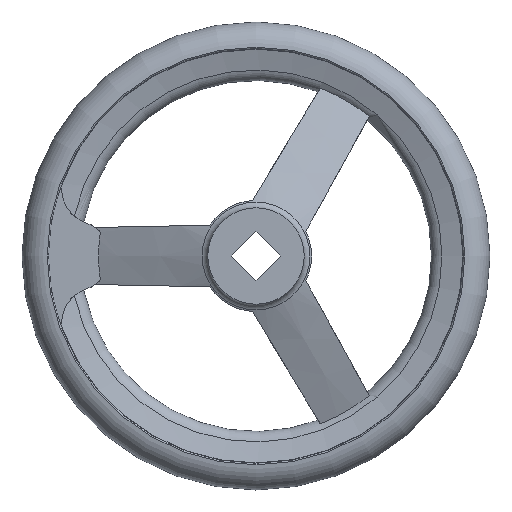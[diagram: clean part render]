
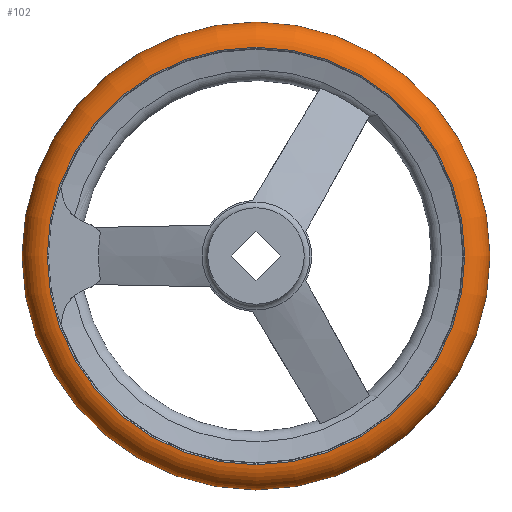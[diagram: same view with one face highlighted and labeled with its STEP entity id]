
A CAD part, left-side view. The second image highlights one B-rep face of the part: STEP entity #102.
In plain terms, the highlighted toroidal (fillet/blend) face has major radius 70.992 mm and minor radius 9.008 mm.
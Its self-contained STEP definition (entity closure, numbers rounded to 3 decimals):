
#102 = ADVANCED_FACE( '', ( #179, #180, #181 ), #182, .T. );
#179 = FACE_BOUND( '', #273, .T. );
#180 = FACE_OUTER_BOUND( '', #274, .T. );
#181 = FACE_OUTER_BOUND( '', #275, .T. );
#182 = TOROIDAL_SURFACE( '', #276, 70.992, 9.008 );
#273 = VERTEX_LOOP( '', #518 );
#274 = EDGE_LOOP( '', ( #519 ) );
#275 = EDGE_LOOP( '', ( #520 ) );
#276 = AXIS2_PLACEMENT_3D( '', #521, #522, #523 );
#518 = VERTEX_POINT( '', #690 );
#519 = ORIENTED_EDGE( '', *, *, #689, .T. );
#520 = ORIENTED_EDGE( '', *, *, #681, .F. );
#521 = CARTESIAN_POINT( '', ( 31., 0., 0. ) );
#522 = DIRECTION( '', ( 1., 0., 0. ) );
#523 = DIRECTION( '', ( 0., 1., 0. ) );
#681 = EDGE_CURVE( '', #833, #833, #834, .T. );
#689 = EDGE_CURVE( '', #846, #846, #847, .T. );
#690 = CARTESIAN_POINT( '', ( 31., 80., 0. ) );
#833 = VERTEX_POINT( '', #1356 );
#834 = CIRCLE( '', #1357, 71.375 );
#846 = VERTEX_POINT( '', #1369 );
#847 = CIRCLE( '', #1370, 71.375 );
#1356 = CARTESIAN_POINT( '', ( 40., 71.375, 0. ) );
#1357 = AXIS2_PLACEMENT_3D( '', #1505, #1506, #1507 );
#1369 = CARTESIAN_POINT( '', ( 22., 71.375, 0. ) );
#1370 = AXIS2_PLACEMENT_3D( '', #1529, #1530, #1531 );
#1505 = CARTESIAN_POINT( '', ( 40., 0., 0. ) );
#1506 = DIRECTION( '', ( 1., 0., 0. ) );
#1507 = DIRECTION( '', ( 0., 1., 0. ) );
#1529 = CARTESIAN_POINT( '', ( 22., 0., 0. ) );
#1530 = DIRECTION( '', ( 1., 0., 0. ) );
#1531 = DIRECTION( '', ( 0., 1., 0. ) );
